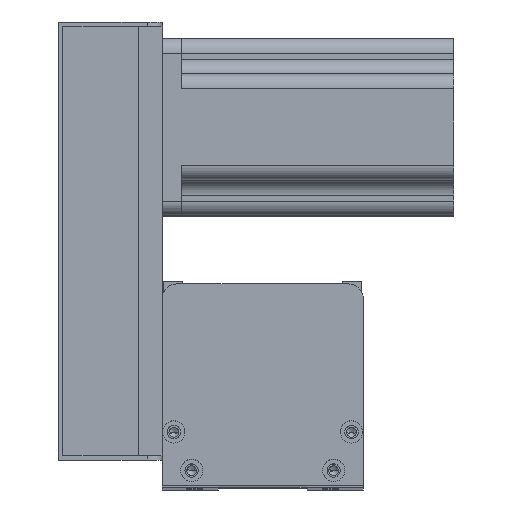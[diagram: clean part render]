
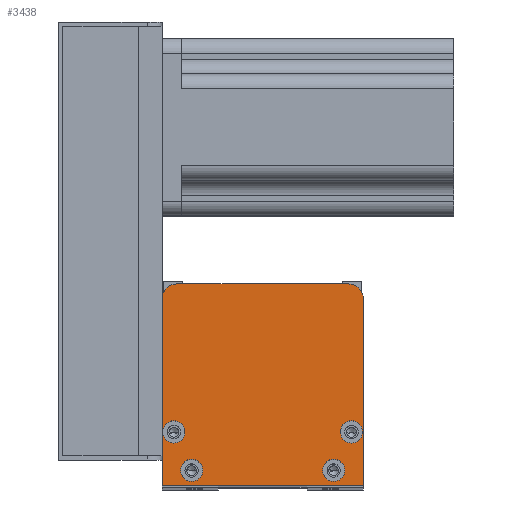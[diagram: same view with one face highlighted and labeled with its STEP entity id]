
A CAD part, top view. The second image highlights one B-rep face of the part: STEP entity #3438.
In plain terms, the highlighted planar face has unit normal (0, 0, 1) as drawn and (0, 0, -1) by its records, which use the part's own axes.
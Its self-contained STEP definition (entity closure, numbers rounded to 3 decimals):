
#21 = CARTESIAN_POINT ( 'NONE',  ( 68., 0., 0. ) ) ;
#92 = FACE_BOUND ( 'NONE', #24524, .T. ) ;
#647 = DIRECTION ( 'NONE',  ( 0., 0., 1. ) ) ;
#1843 = EDGE_CURVE ( 'NONE', #26248, #14148, #24859, .T. ) ;
#2157 = AXIS2_PLACEMENT_3D ( 'NONE', #11619, #9936, #10033 ) ;
#2329 = CARTESIAN_POINT ( 'NONE',  ( 6.25, 5., 0. ) ) ;
#2658 = CARTESIAN_POINT ( 'NONE',  ( 7.75, 18., 0. ) ) ;
#2711 = CARTESIAN_POINT ( 'NONE',  ( 0.25, 18., 0. ) ) ;
#2883 = AXIS2_PLACEMENT_3D ( 'NONE', #9326, #20482, #7508 ) ;
#2903 = PLANE ( 'NONE',  #27517 ) ;
#3083 = DIRECTION ( 'NONE',  ( 1., 0., 0. ) ) ;
#3308 = CARTESIAN_POINT ( 'NONE',  ( 68., 0., 0. ) ) ;
#3438 = ADVANCED_FACE ( 'NONE', ( #92, #6562, #23421, #11317, #10975 ), #2903, .F. ) ;
#3823 = CIRCLE ( 'NONE', #17252, 3.75 ) ;
#3841 = EDGE_CURVE ( 'NONE', #28021, #7039, #3823, .T. ) ;
#3861 = CARTESIAN_POINT ( 'NONE',  ( 64., 18., 0. ) ) ;
#3934 = CIRCLE ( 'NONE', #16345, 3.75 ) ;
#4290 = CARTESIAN_POINT ( 'NONE',  ( 54.25, 5., 0. ) ) ;
#4507 = DIRECTION ( 'NONE',  ( -1., 0., 0. ) ) ;
#4510 = ORIENTED_EDGE ( 'NONE', *, *, #8236, .F. ) ;
#5757 = DIRECTION ( 'NONE',  ( -1., 0., 0. ) ) ;
#5803 = EDGE_LOOP ( 'NONE', ( #4510, #25834 ) ) ;
#5987 = CARTESIAN_POINT ( 'NONE',  ( 68., 63., 0. ) ) ;
#6439 = EDGE_CURVE ( 'NONE', #24717, #22161, #13852, .T. ) ;
#6562 = FACE_BOUND ( 'NONE', #5803, .T. ) ;
#6747 = EDGE_CURVE ( 'NONE', #10955, #27267, #13508, .T. ) ;
#6951 = CARTESIAN_POINT ( 'NONE',  ( 4., 18., 0. ) ) ;
#7039 = VERTEX_POINT ( 'NONE', #25179 ) ;
#7079 = AXIS2_PLACEMENT_3D ( 'NONE', #6951, #21924, #17685 ) ;
#7238 = CARTESIAN_POINT ( 'NONE',  ( 64., 18., 0. ) ) ;
#7302 = CARTESIAN_POINT ( 'NONE',  ( 0., 0., 0. ) ) ;
#7397 = EDGE_CURVE ( 'NONE', #17851, #22315, #22513, .T. ) ;
#7508 = DIRECTION ( 'NONE',  ( -1., 0., 0. ) ) ;
#7523 = LINE ( 'NONE', #21, #9566 ) ;
#8181 = CARTESIAN_POINT ( 'NONE',  ( 0., 0., 0. ) ) ;
#8236 = EDGE_CURVE ( 'NONE', #14148, #26248, #3934, .T. ) ;
#8859 = EDGE_CURVE ( 'NONE', #17851, #24717, #17792, .T. ) ;
#8966 = ORIENTED_EDGE ( 'NONE', *, *, #25913, .F. ) ;
#9326 = CARTESIAN_POINT ( 'NONE',  ( 58., 5., 0. ) ) ;
#9391 = DIRECTION ( 'NONE',  ( 1., 0., 0. ) ) ;
#9407 = CARTESIAN_POINT ( 'NONE',  ( 0., 63., 0. ) ) ;
#9490 = LINE ( 'NONE', #23662, #20221 ) ;
#9566 = VECTOR ( 'NONE', #25889, 1000. ) ;
#9936 = DIRECTION ( 'NONE',  ( 0., 0., -1. ) ) ;
#10033 = DIRECTION ( 'NONE',  ( 1., 0., 0. ) ) ;
#10063 = DIRECTION ( 'NONE',  ( 0., 0., -1. ) ) ;
#10247 = CARTESIAN_POINT ( 'NONE',  ( 4., 18., 0. ) ) ;
#10255 = EDGE_LOOP ( 'NONE', ( #20590, #22571 ) ) ;
#10658 = CIRCLE ( 'NONE', #21750, 3.75 ) ;
#10710 = VERTEX_POINT ( 'NONE', #11953 ) ;
#10955 = VERTEX_POINT ( 'NONE', #2329 ) ;
#10975 = FACE_OUTER_BOUND ( 'NONE', #24369, .T. ) ;
#11139 = DIRECTION ( 'NONE',  ( 0., -1., 0. ) ) ;
#11317 = FACE_BOUND ( 'NONE', #10255, .T. ) ;
#11341 = CARTESIAN_POINT ( 'NONE',  ( 58., 5., 0. ) ) ;
#11619 = CARTESIAN_POINT ( 'NONE',  ( 5., 63., 0. ) ) ;
#11953 = CARTESIAN_POINT ( 'NONE',  ( 63., 68., 0. ) ) ;
#12400 = DIRECTION ( 'NONE',  ( 0., 0., -1. ) ) ;
#12486 = CARTESIAN_POINT ( 'NONE',  ( 10., 5., 0. ) ) ;
#12514 = CARTESIAN_POINT ( 'NONE',  ( 5., 68., 0. ) ) ;
#12560 = DIRECTION ( 'NONE',  ( -1., 0., 0. ) ) ;
#12790 = CARTESIAN_POINT ( 'NONE',  ( 67.75, 18., 0. ) ) ;
#13055 = CARTESIAN_POINT ( 'NONE',  ( 13.75, 5., 0. ) ) ;
#13125 = CARTESIAN_POINT ( 'NONE',  ( 0., 0., 0. ) ) ;
#13266 = AXIS2_PLACEMENT_3D ( 'NONE', #12486, #14456, #23008 ) ;
#13508 = CIRCLE ( 'NONE', #13266, 3.75 ) ;
#13550 = DIRECTION ( 'NONE',  ( 1., 0., 0. ) ) ;
#13852 = LINE ( 'NONE', #15225, #27651 ) ;
#14148 = VERTEX_POINT ( 'NONE', #2711 ) ;
#14169 = VERTEX_POINT ( 'NONE', #17913 ) ;
#14456 = DIRECTION ( 'NONE',  ( 0., 0., -1. ) ) ;
#15116 = AXIS2_PLACEMENT_3D ( 'NONE', #22425, #24601, #3083 ) ;
#15225 = CARTESIAN_POINT ( 'NONE',  ( 68., 0., 0. ) ) ;
#15992 = DIRECTION ( 'NONE',  ( 0., 0., -1. ) ) ;
#16056 = CIRCLE ( 'NONE', #19791, 3.75 ) ;
#16345 = AXIS2_PLACEMENT_3D ( 'NONE', #10247, #10063, #25277 ) ;
#16499 = EDGE_CURVE ( 'NONE', #19784, #14169, #25644, .T. ) ;
#17252 = AXIS2_PLACEMENT_3D ( 'NONE', #7238, #15992, #18048 ) ;
#17404 = ORIENTED_EDGE ( 'NONE', *, *, #3841, .F. ) ;
#17505 = DIRECTION ( 'NONE',  ( -1., 0., 0. ) ) ;
#17685 = DIRECTION ( 'NONE',  ( -1., 0., 0. ) ) ;
#17792 = LINE ( 'NONE', #13125, #20465 ) ;
#17851 = VERTEX_POINT ( 'NONE', #9407 ) ;
#17913 = CARTESIAN_POINT ( 'NONE',  ( 61.75, 5., 0. ) ) ;
#18048 = DIRECTION ( 'NONE',  ( -1., 0., 0. ) ) ;
#19021 = ORIENTED_EDGE ( 'NONE', *, *, #21315, .T. ) ;
#19762 = EDGE_CURVE ( 'NONE', #27267, #10955, #16056, .T. ) ;
#19784 = VERTEX_POINT ( 'NONE', #4290 ) ;
#19791 = AXIS2_PLACEMENT_3D ( 'NONE', #25984, #21469, #17505 ) ;
#20221 = VECTOR ( 'NONE', #12560, 1000. ) ;
#20342 = EDGE_CURVE ( 'NONE', #7039, #28021, #10658, .T. ) ;
#20465 = VECTOR ( 'NONE', #11139, 1000. ) ;
#20482 = DIRECTION ( 'NONE',  ( 0., 0., -1. ) ) ;
#20590 = ORIENTED_EDGE ( 'NONE', *, *, #16499, .F. ) ;
#20627 = EDGE_CURVE ( 'NONE', #14169, #19784, #27465, .T. ) ;
#21315 = EDGE_CURVE ( 'NONE', #10710, #24180, #23029, .T. ) ;
#21469 = DIRECTION ( 'NONE',  ( 0., 0., -1. ) ) ;
#21661 = ORIENTED_EDGE ( 'NONE', *, *, #7397, .T. ) ;
#21750 = AXIS2_PLACEMENT_3D ( 'NONE', #3861, #12400, #5757 ) ;
#21796 = EDGE_CURVE ( 'NONE', #22161, #24180, #7523, .T. ) ;
#21871 = ORIENTED_EDGE ( 'NONE', *, *, #6747, .F. ) ;
#21924 = DIRECTION ( 'NONE',  ( 0., 0., -1. ) ) ;
#22161 = VERTEX_POINT ( 'NONE', #3308 ) ;
#22315 = VERTEX_POINT ( 'NONE', #12514 ) ;
#22425 = CARTESIAN_POINT ( 'NONE',  ( 63., 63., 0. ) ) ;
#22513 = CIRCLE ( 'NONE', #2157, 5. ) ;
#22571 = ORIENTED_EDGE ( 'NONE', *, *, #20627, .F. ) ;
#23008 = DIRECTION ( 'NONE',  ( -1., 0., 0. ) ) ;
#23029 = CIRCLE ( 'NONE', #15116, 5. ) ;
#23421 = FACE_BOUND ( 'NONE', #24861, .T. ) ;
#23662 = CARTESIAN_POINT ( 'NONE',  ( 68., 68., 0. ) ) ;
#23748 = ORIENTED_EDGE ( 'NONE', *, *, #8859, .F. ) ;
#23930 = AXIS2_PLACEMENT_3D ( 'NONE', #11341, #24033, #4507 ) ;
#24033 = DIRECTION ( 'NONE',  ( 0., 0., -1. ) ) ;
#24180 = VERTEX_POINT ( 'NONE', #5987 ) ;
#24369 = EDGE_LOOP ( 'NONE', ( #23748, #21661, #8966, #19021, #24736, #24979 ) ) ;
#24524 = EDGE_LOOP ( 'NONE', ( #27659, #17404 ) ) ;
#24601 = DIRECTION ( 'NONE',  ( 0., 0., -1. ) ) ;
#24717 = VERTEX_POINT ( 'NONE', #8181 ) ;
#24736 = ORIENTED_EDGE ( 'NONE', *, *, #21796, .F. ) ;
#24859 = CIRCLE ( 'NONE', #7079, 3.75 ) ;
#24861 = EDGE_LOOP ( 'NONE', ( #21871, #25415 ) ) ;
#24979 = ORIENTED_EDGE ( 'NONE', *, *, #6439, .F. ) ;
#25179 = CARTESIAN_POINT ( 'NONE',  ( 60.25, 18., 0. ) ) ;
#25277 = DIRECTION ( 'NONE',  ( -1., 0., 0. ) ) ;
#25415 = ORIENTED_EDGE ( 'NONE', *, *, #19762, .F. ) ;
#25644 = CIRCLE ( 'NONE', #2883, 3.75 ) ;
#25834 = ORIENTED_EDGE ( 'NONE', *, *, #1843, .F. ) ;
#25889 = DIRECTION ( 'NONE',  ( 0., 1., 0. ) ) ;
#25913 = EDGE_CURVE ( 'NONE', #10710, #22315, #9490, .T. ) ;
#25984 = CARTESIAN_POINT ( 'NONE',  ( 10., 5., 0. ) ) ;
#26248 = VERTEX_POINT ( 'NONE', #2658 ) ;
#27267 = VERTEX_POINT ( 'NONE', #13055 ) ;
#27465 = CIRCLE ( 'NONE', #23930, 3.75 ) ;
#27517 = AXIS2_PLACEMENT_3D ( 'NONE', #7302, #647, #13550 ) ;
#27651 = VECTOR ( 'NONE', #9391, 1000. ) ;
#27659 = ORIENTED_EDGE ( 'NONE', *, *, #20342, .F. ) ;
#28021 = VERTEX_POINT ( 'NONE', #12790 ) ;
